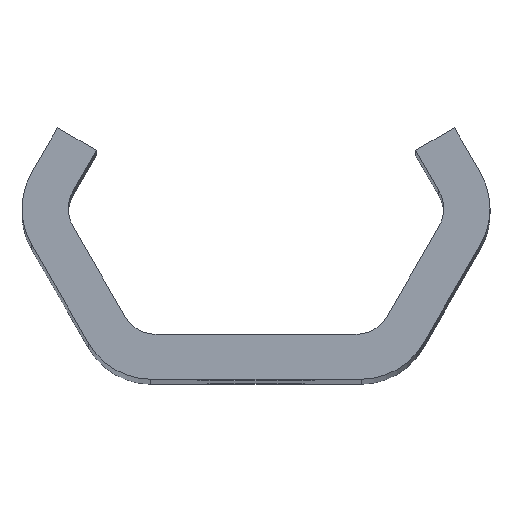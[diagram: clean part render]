
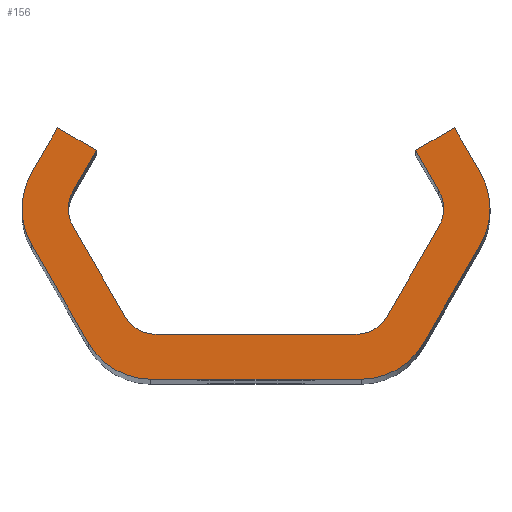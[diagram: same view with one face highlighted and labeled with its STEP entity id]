
A CAD part, top view. The second image highlights one B-rep face of the part: STEP entity #156.
In plain terms, the highlighted planar face has unit normal (0, 0, 1).
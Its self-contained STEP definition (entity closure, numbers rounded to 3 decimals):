
#156=ADVANCED_FACE('NONE',(#380),#381,.F.);
#380=FACE_OUTER_BOUND('',#1008,.T.);
#381=PLANE('',#1009);
#1008=EDGE_LOOP('',(#1962,#1963,#1964,#1965,#1966,#1967,#1968,#1969,#1970,#1971,#1972,#1973,#1974,#1975,#1976,#1977,#1978,#1979,#1980,#1981,#1982,#1983,#1984,#1985));
#1009=AXIS2_PLACEMENT_3D('',#1986,#1987,#1988);
#1962=ORIENTED_EDGE('',*,*,#2649,.T.);
#1963=ORIENTED_EDGE('',*,*,#2666,.T.);
#1964=ORIENTED_EDGE('',*,*,#2651,.T.);
#1965=ORIENTED_EDGE('',*,*,#2667,.T.);
#1966=ORIENTED_EDGE('',*,*,#2660,.F.);
#1967=ORIENTED_EDGE('',*,*,#2668,.T.);
#1968=ORIENTED_EDGE('',*,*,#2531,.T.);
#1969=ORIENTED_EDGE('',*,*,#2663,.F.);
#1970=ORIENTED_EDGE('',*,*,#2575,.F.);
#1971=ORIENTED_EDGE('',*,*,#2579,.F.);
#1972=ORIENTED_EDGE('',*,*,#2565,.T.);
#1973=ORIENTED_EDGE('',*,*,#2669,.T.);
#1974=ORIENTED_EDGE('',*,*,#2583,.F.);
#1975=ORIENTED_EDGE('',*,*,#2670,.T.);
#1976=ORIENTED_EDGE('',*,*,#2588,.F.);
#1977=ORIENTED_EDGE('',*,*,#2671,.T.);
#1978=ORIENTED_EDGE('',*,*,#2632,.T.);
#1979=ORIENTED_EDGE('',*,*,#2672,.T.);
#1980=ORIENTED_EDGE('',*,*,#2526,.T.);
#1981=ORIENTED_EDGE('',*,*,#2635,.T.);
#1982=ORIENTED_EDGE('',*,*,#2641,.T.);
#1983=ORIENTED_EDGE('',*,*,#2645,.T.);
#1984=ORIENTED_EDGE('',*,*,#2673,.T.);
#1985=ORIENTED_EDGE('',*,*,#2568,.T.);
#1986=CARTESIAN_POINT('',(0.0,0.0,160.0));
#1987=DIRECTION('',(0.0,0.0,-1.0));
#1988=DIRECTION('',(0.0,-1.0,0.0));
#2526=EDGE_CURVE('NONE',#2840,#2844,#2846,.T.);
#2531=EDGE_CURVE('NONE',#2849,#2853,#2855,.T.);
#2565=EDGE_CURVE('NONE',#2916,#2914,#2917,.T.);
#2568=EDGE_CURVE('NONE',#2920,#2921,#2922,.T.);
#2575=EDGE_CURVE('NONE',#2932,#2934,#2935,.T.);
#2579=EDGE_CURVE('NONE',#2916,#2932,#2939,.T.);
#2583=EDGE_CURVE('NONE',#2944,#2946,#2947,.T.);
#2588=EDGE_CURVE('NONE',#2953,#2955,#2956,.T.);
#2632=EDGE_CURVE('NONE',#3038,#3036,#3039,.T.);
#2635=EDGE_CURVE('NONE',#2844,#3042,#3043,.T.);
#2641=EDGE_CURVE('NONE',#3042,#3050,#3052,.T.);
#2645=EDGE_CURVE('NONE',#3050,#3056,#3058,.T.);
#2649=EDGE_CURVE('NONE',#2921,#3062,#3064,.T.);
#2651=EDGE_CURVE('NONE',#3066,#3067,#3068,.T.);
#2660=EDGE_CURVE('NONE',#3080,#3082,#3083,.T.);
#2663=EDGE_CURVE('NONE',#2934,#2853,#3086,.T.);
#2666=EDGE_CURVE('NONE',#3062,#3066,#3089,.T.);
#2667=EDGE_CURVE('NONE',#3067,#3082,#3090,.T.);
#2668=EDGE_CURVE('NONE',#3080,#2849,#3091,.T.);
#2669=EDGE_CURVE('NONE',#2914,#2946,#3092,.T.);
#2670=EDGE_CURVE('NONE',#2944,#2955,#3093,.T.);
#2671=EDGE_CURVE('NONE',#2953,#3038,#3094,.T.);
#2672=EDGE_CURVE('NONE',#3036,#2840,#3095,.T.);
#2673=EDGE_CURVE('NONE',#3056,#2920,#3096,.T.);
#2840=VERTEX_POINT('',#3308);
#2844=VERTEX_POINT('NONE',#3313);
#2846=CIRCLE('',#3316,2.0);
#2849=VERTEX_POINT('',#3319);
#2853=VERTEX_POINT('NONE',#3324);
#2855=CIRCLE('',#3327,4.0);
#2914=VERTEX_POINT('NONE',#3740);
#2916=VERTEX_POINT('NONE',#3743);
#2917=CIRCLE('',#3744,2.0);
#2920=VERTEX_POINT('NONE',#3748);
#2921=VERTEX_POINT('NONE',#3749);
#2922=CIRCLE('',#3750,4.0);
#2932=VERTEX_POINT('NONE',#3763);
#2934=VERTEX_POINT('NONE',#3766);
#2935=LINE('',#3767,#3768);
#2939=LINE('',#3774,#3775);
#2944=VERTEX_POINT('NONE',#3781);
#2946=VERTEX_POINT('NONE',#3784);
#2947=LINE('',#3785,#3786);
#2953=VERTEX_POINT('NONE',#3794);
#2955=VERTEX_POINT('NONE',#3797);
#2956=LINE('',#3798,#3799);
#3036=VERTEX_POINT('NONE',#4081);
#3038=VERTEX_POINT('NONE',#4084);
#3039=LINE('',#4085,#4086);
#3042=VERTEX_POINT('NONE',#4090);
#3043=LINE('',#4091,#4092);
#3050=VERTEX_POINT('NONE',#4102);
#3052=LINE('',#4105,#4106);
#3056=VERTEX_POINT('NONE',#4111);
#3058=LINE('',#4114,#4115);
#3062=VERTEX_POINT('NONE',#4120);
#3064=LINE('',#4123,#4124);
#3066=VERTEX_POINT('NONE',#4126);
#3067=VERTEX_POINT('NONE',#4127);
#3068=LINE('',#4128,#4129);
#3080=VERTEX_POINT('NONE',#4145);
#3082=VERTEX_POINT('NONE',#4148);
#3083=LINE('',#4149,#4150);
#3086=LINE('',#4154,#4155);
#3089=CIRCLE('',#4159,4.0);
#3090=CIRCLE('',#4160,4.0);
#3091=CIRCLE('',#4161,4.0);
#3092=CIRCLE('',#4162,2.0);
#3093=CIRCLE('',#4163,2.0);
#3094=CIRCLE('',#4164,2.0);
#3095=CIRCLE('',#4165,2.0);
#3096=CIRCLE('',#4166,4.0);
#3308=CARTESIAN_POINT('',(-10.455,0.,160.0));
#3313=CARTESIAN_POINT('',(-10.187,1.,160.0));
#3316=AXIS2_PLACEMENT_3D('',#4831,#4832,#4833);
#3319=CARTESIAN_POINT('',(13.032,0.,160.0));
#3324=CARTESIAN_POINT('',(12.496,2.,160.0));
#3327=AXIS2_PLACEMENT_3D('',#4839,#4840,#4841);
#3740=CARTESIAN_POINT('',(10.455,0.,160.0));
#3743=CARTESIAN_POINT('',(10.187,1.,160.0));
#3744=AXIS2_PLACEMENT_3D('',#4870,#4871,#4872);
#3748=CARTESIAN_POINT('',(-13.032,0.,160.0));
#3749=CARTESIAN_POINT('',(-12.496,-2.,160.0));
#3750=AXIS2_PLACEMENT_3D('',#4874,#4875,#4876);
#3763=CARTESIAN_POINT('',(8.888,3.25,160.0));
#3766=CARTESIAN_POINT('',(11.053,4.5,160.0));
#3767=CARTESIAN_POINT('',(8.888,3.25,160.0));
#3768=VECTOR('',#4884,1000.0);
#3774=CARTESIAN_POINT('',(10.764,0.,160.0));
#3775=VECTOR('',#4887,1000.0);
#3781=CARTESIAN_POINT('',(7.3,-6.,160.0));
#3784=CARTESIAN_POINT('',(10.187,-1.,160.0));
#3785=CARTESIAN_POINT('',(6.723,-7.0,160.0));
#3786=VECTOR('',#4890,1000.0);
#3794=CARTESIAN_POINT('',(-5.568,-7.0,160.0));
#3797=CARTESIAN_POINT('',(5.568,-7.0,160.0));
#3798=CARTESIAN_POINT('',(-6.723,-7.0,160.0));
#3799=VECTOR('',#4894,1000.0);
#4081=CARTESIAN_POINT('',(-10.187,-1.,160.0));
#4084=CARTESIAN_POINT('',(-7.3,-6.,160.0));
#4085=CARTESIAN_POINT('',(-6.723,-7.0,160.0));
#4086=VECTOR('',#4937,1000.0);
#4090=CARTESIAN_POINT('',(-8.888,3.25,160.0));
#4091=CARTESIAN_POINT('',(-10.764,0.0,160.0));
#4092=VECTOR('',#4939,1000.0);
#4102=CARTESIAN_POINT('',(-11.053,4.5,160.0));
#4105=CARTESIAN_POINT('',(-8.888,3.25,160.0));
#4106=VECTOR('',#4944,1000.0);
#4111=CARTESIAN_POINT('',(-12.496,2.0,160.0));
#4114=CARTESIAN_POINT('',(-11.053,4.5,160.0));
#4115=VECTOR('',#4947,1000.0);
#4120=CARTESIAN_POINT('',(-9.321,-7.5,160.0));
#4123=CARTESIAN_POINT('',(-13.651,0.0,160.0));
#4124=VECTOR('',#4950,1000.0);
#4126=CARTESIAN_POINT('',(-5.857,-9.5,160.0));
#4127=CARTESIAN_POINT('',(5.857,-9.5,160.0));
#4128=CARTESIAN_POINT('',(-8.166,-9.5,160.0));
#4129=VECTOR('',#4951,1000.0);
#4145=CARTESIAN_POINT('',(12.496,-2.,160.0));
#4148=CARTESIAN_POINT('',(9.321,-7.5,160.0));
#4149=CARTESIAN_POINT('',(13.651,0.,160.0));
#4150=VECTOR('',#4963,1000.0);
#4154=CARTESIAN_POINT('',(11.053,4.5,160.0));
#4155=VECTOR('',#4965,1000.0);
#4159=AXIS2_PLACEMENT_3D('',#4967,#4968,#4969);
#4160=AXIS2_PLACEMENT_3D('',#4970,#4971,#4972);
#4161=AXIS2_PLACEMENT_3D('',#4973,#4974,#4975);
#4162=AXIS2_PLACEMENT_3D('',#4976,#4977,#4978);
#4163=AXIS2_PLACEMENT_3D('',#4979,#4980,#4981);
#4164=AXIS2_PLACEMENT_3D('',#4982,#4983,#4984);
#4165=AXIS2_PLACEMENT_3D('',#4985,#4986,#4987);
#4166=AXIS2_PLACEMENT_3D('',#4988,#4989,#4990);
#4831=CARTESIAN_POINT('',(-8.455,0.,160.0));
#4832=DIRECTION('',(0.0,0.0,-1.0));
#4833=DIRECTION('',(-1.0,0.0,0.0));
#4839=CARTESIAN_POINT('',(9.032,0.,160.0));
#4840=DIRECTION('',(0.0,0.0,1.0));
#4841=DIRECTION('',(-1.0,0.0,0.0));
#4870=CARTESIAN_POINT('',(8.455,0.,160.0));
#4871=DIRECTION('',(0.0,0.0,-1.0));
#4872=DIRECTION('',(-1.0,0.0,0.0));
#4874=CARTESIAN_POINT('',(-9.032,0.,160.0));
#4875=DIRECTION('',(0.0,0.0,1.0));
#4876=DIRECTION('',(-1.0,0.0,0.0));
#4884=DIRECTION('',(0.866,0.5,0.0));
#4887=DIRECTION('',(-0.5,0.866,0.0));
#4890=DIRECTION('',(0.5,0.866,0.0));
#4894=DIRECTION('',(1.0,0.,0.0));
#4937=DIRECTION('',(-0.5,0.866,0.0));
#4939=DIRECTION('',(0.5,0.866,0.0));
#4944=DIRECTION('',(-0.866,0.5,0.0));
#4947=DIRECTION('',(-0.5,-0.866,0.0));
#4950=DIRECTION('',(0.5,-0.866,0.0));
#4951=DIRECTION('',(1.0,0.,0.0));
#4963=DIRECTION('',(-0.5,-0.866,0.0));
#4965=DIRECTION('',(0.5,-0.866,0.0));
#4967=CARTESIAN_POINT('',(-5.857,-5.5,160.0));
#4968=DIRECTION('',(0.0,0.0,1.0));
#4969=DIRECTION('',(-1.0,0.0,0.0));
#4970=CARTESIAN_POINT('',(5.857,-5.5,160.0));
#4971=DIRECTION('',(0.0,0.0,1.0));
#4972=DIRECTION('',(-1.0,0.0,0.0));
#4973=CARTESIAN_POINT('',(9.032,0.,160.0));
#4974=DIRECTION('',(0.0,0.0,1.0));
#4975=DIRECTION('',(-1.0,0.0,0.0));
#4976=CARTESIAN_POINT('',(8.455,0.,160.0));
#4977=DIRECTION('',(0.0,0.0,-1.0));
#4978=DIRECTION('',(-1.0,0.0,0.0));
#4979=CARTESIAN_POINT('',(5.568,-5.0,160.0));
#4980=DIRECTION('',(0.0,0.0,-1.0));
#4981=DIRECTION('',(-1.0,0.0,0.0));
#4982=CARTESIAN_POINT('',(-5.568,-5.0,160.0));
#4983=DIRECTION('',(0.0,0.0,-1.0));
#4984=DIRECTION('',(-1.0,0.0,0.0));
#4985=CARTESIAN_POINT('',(-8.455,0.,160.0));
#4986=DIRECTION('',(0.0,0.0,-1.0));
#4987=DIRECTION('',(-1.0,0.0,0.0));
#4988=CARTESIAN_POINT('',(-9.032,0.,160.0));
#4989=DIRECTION('',(0.0,0.0,1.0));
#4990=DIRECTION('',(-1.0,0.,0.0));
